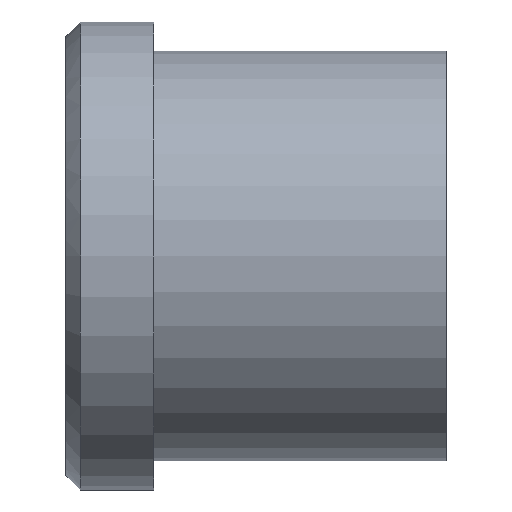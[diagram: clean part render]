
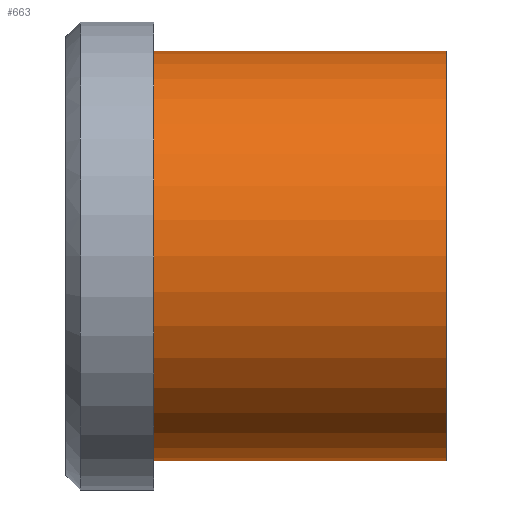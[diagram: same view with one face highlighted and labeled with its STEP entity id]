
A CAD part, front view. The second image highlights one B-rep face of the part: STEP entity #663.
In plain terms, the highlighted cylindrical face has radius 14 mm (diameter 28 mm), a partial arc.
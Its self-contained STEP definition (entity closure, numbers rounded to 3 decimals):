
#501=CARTESIAN_POINT('Vertex',(0.,0.,-14.)) ;
#506=CARTESIAN_POINT('Axis2P3D Location',(0.,0.,0.)) ;
#510=CARTESIAN_POINT('Vertex',(0.,-14.,0.)) ;
#513=CARTESIAN_POINT('Axis2P3D Location',(0.,0.,0.)) ;
#517=CARTESIAN_POINT('Vertex',(0.,0.,14.)) ;
#603=CARTESIAN_POINT('Line Origine',(20.,0.,14.)) ;
#607=CARTESIAN_POINT('Vertex',(20.,0.,14.)) ;
#621=CARTESIAN_POINT('Vertex',(20.,0.,-14.)) ;
#624=CARTESIAN_POINT('Line Origine',(20.,0.,-14.)) ;
#638=CARTESIAN_POINT('Axis2P3D Location',(20.,0.,0.)) ;
#643=CARTESIAN_POINT('Axis2P3D Location',(20.,0.,0.)) ;
#647=CARTESIAN_POINT('Vertex',(20.,-14.,0.)) ;
#650=CARTESIAN_POINT('Axis2P3D Location',(20.,0.,0.)) ;
#507=DIRECTION('Axis2P3D Direction',(1.,0.,-0.)) ;
#514=DIRECTION('Axis2P3D Direction',(1.,0.,-0.)) ;
#604=DIRECTION('Vector Direction',(-1.,0.,0.)) ;
#625=DIRECTION('Vector Direction',(-1.,0.,0.)) ;
#639=DIRECTION('Axis2P3D Direction',(-1.,-0.,-0.)) ;
#640=DIRECTION('Axis2P3D XDirection',(0.,0.,-1.)) ;
#644=DIRECTION('Axis2P3D Direction',(-1.,-0.,-0.)) ;
#651=DIRECTION('Axis2P3D Direction',(-1.,-0.,-0.)) ;
#508=AXIS2_PLACEMENT_3D('Circle Axis2P3D',#506,#507,$) ;
#515=AXIS2_PLACEMENT_3D('Circle Axis2P3D',#513,#514,$) ;
#641=AXIS2_PLACEMENT_3D('Cylinder Axis2P3D',#638,#639,#640) ;
#645=AXIS2_PLACEMENT_3D('Circle Axis2P3D',#643,#644,$) ;
#652=AXIS2_PLACEMENT_3D('Circle Axis2P3D',#650,#651,$) ;
#656=ORIENTED_EDGE('',*,*,#628,.T.) ;
#657=ORIENTED_EDGE('',*,*,#649,.F.) ;
#658=ORIENTED_EDGE('',*,*,#654,.F.) ;
#659=ORIENTED_EDGE('',*,*,#609,.T.) ;
#660=ORIENTED_EDGE('',*,*,#519,.T.) ;
#661=ORIENTED_EDGE('',*,*,#512,.T.) ;
#605=VECTOR('Line Direction',#604,1.) ;
#626=VECTOR('Line Direction',#625,1.) ;
#663=ADVANCED_FACE('353-20X26',(#662),#642,.T.) ;
#509=CIRCLE('generated circle',#508,14.) ;
#516=CIRCLE('generated circle',#515,14.) ;
#646=CIRCLE('generated circle',#645,14.) ;
#653=CIRCLE('generated circle',#652,14.) ;
#642=CYLINDRICAL_SURFACE('generated cylinder',#641,14.) ;
#512=EDGE_CURVE('',#511,#502,#509,.T.) ;
#519=EDGE_CURVE('',#518,#511,#516,.T.) ;
#609=EDGE_CURVE('',#608,#518,#606,.T.) ;
#628=EDGE_CURVE('',#502,#622,#627,.F.) ;
#649=EDGE_CURVE('',#648,#622,#646,.F.) ;
#654=EDGE_CURVE('',#608,#648,#653,.F.) ;
#655=EDGE_LOOP('',(#656,#657,#658,#659,#660,#661)) ;
#662=FACE_OUTER_BOUND('',#655,.T.) ;
#606=LINE('Line',#603,#605) ;
#627=LINE('Line',#624,#626) ;
#502=VERTEX_POINT('',#501) ;
#511=VERTEX_POINT('',#510) ;
#518=VERTEX_POINT('',#517) ;
#608=VERTEX_POINT('',#607) ;
#622=VERTEX_POINT('',#621) ;
#648=VERTEX_POINT('',#647) ;
